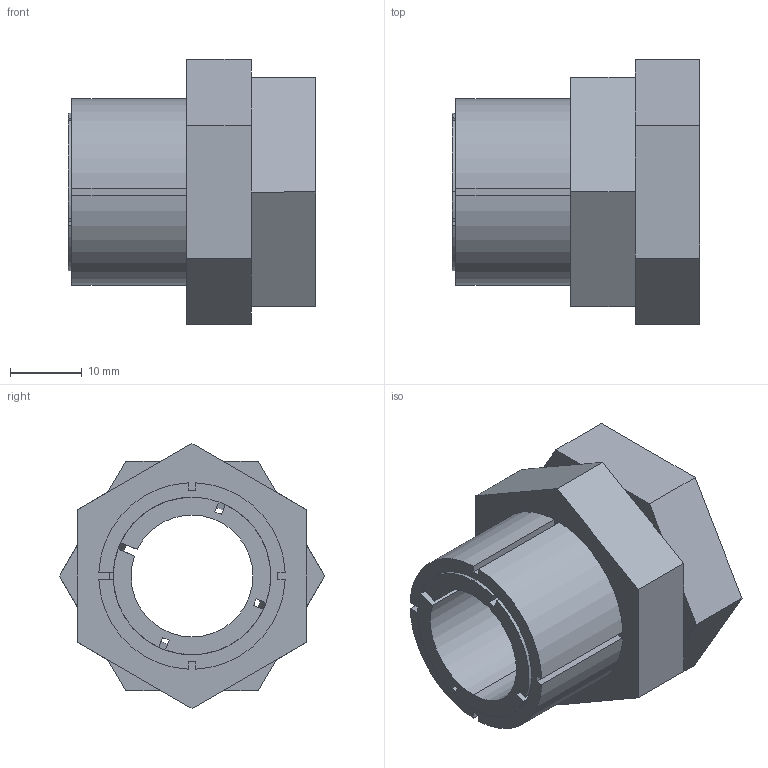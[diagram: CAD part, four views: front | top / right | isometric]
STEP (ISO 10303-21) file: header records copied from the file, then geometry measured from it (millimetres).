
FILE_DESCRIPTION (( 'STEP AP203' ), '1' );
FILE_NAME ('KBS 59 - 17 x 26.STEP', '2015-07-07T21:02:34', ( '' ), ( '' ), 'SwSTEP 2.0', 'SolidWorks 2010', '' );
FILE_SCHEMA (( 'CONFIG_CONTROL_DESIGN' ));
Length unit declared in the file: millimetre
Products named in the file (1): KBS 59 - 17 x 26
Bounding box: 34.5 x 36.95 x 36.95 mm (x, y, z)
Volume: 16318.2 mm3; surface area: 12225.1 mm2
Topology: 3 solids, 3 shells, 78 faces, 204 edges, 132 vertices
Faces by surface type: plane 56, cylinder 14, cone 8
Entity records: 2469 total; most frequent: CARTESIAN_POINT 451, ORIENTED_EDGE 408, DIRECTION 396, EDGE_CURVE 204, LINE 150, VECTOR 150, VERTEX_POINT 132, AXIS2_PLACEMENT_3D 123
